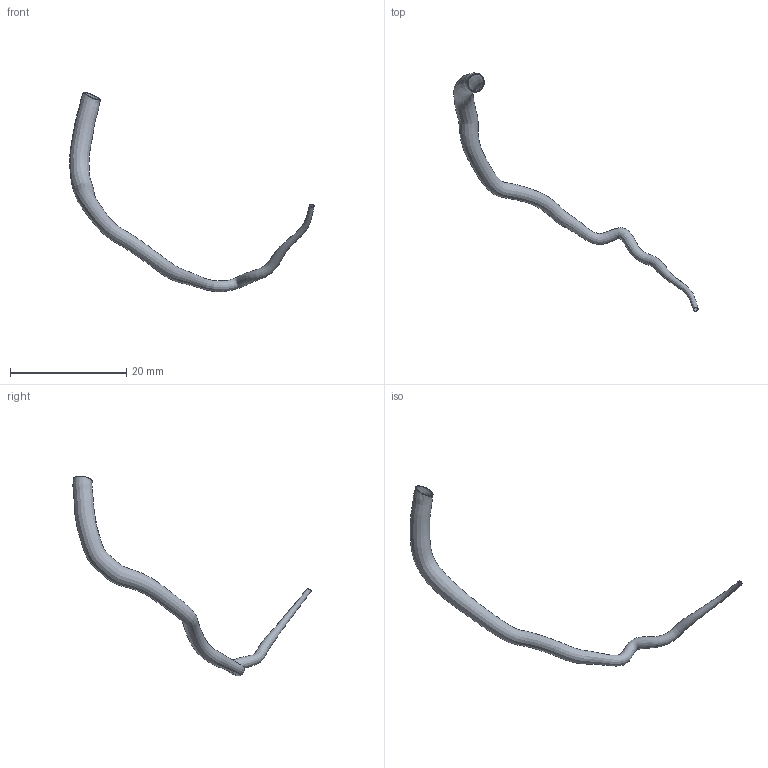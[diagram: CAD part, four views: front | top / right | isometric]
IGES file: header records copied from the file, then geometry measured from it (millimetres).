
Global section: file name: C:\Documents and Settings\Administrator\Desktop\FDA-Pig\Domestic LCA\Pig_000005\lad.seg.es.igs; native system: Rhinoceros ( May 19 2006 ); preprocessor: Trout Lake IGES 012 May 19 2006; date: 111205.183346; units: centimetre
Bounding box: 42.12 x 41.04 x 34.41 mm (x, y, z)
Surface area: 1215.1 mm2 (no closed solid volume)
Topology: 0 solids, 0 shells, 4 faces, 13 edges, 10 vertices
Faces by surface type: bspline 4
